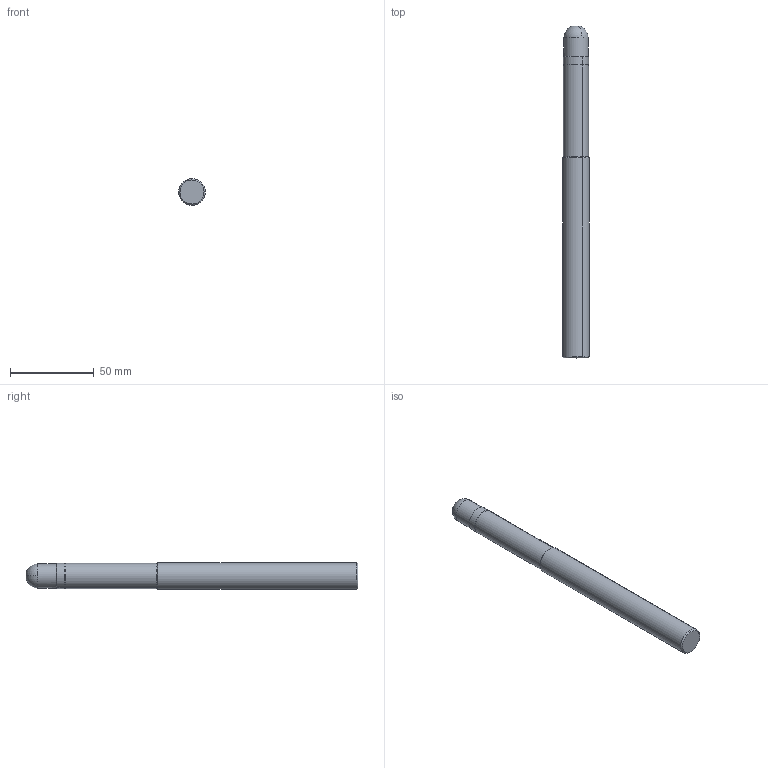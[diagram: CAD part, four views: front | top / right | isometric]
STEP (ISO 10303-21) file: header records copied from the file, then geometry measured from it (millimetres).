
FILE_DESCRIPTION (( 'STEP AP214' ), '1' );
FILE_NAME ('ZBC1602160.STEP', '2021-10-01T01:01:49', ( '' ), ( '' ), 'SwSTEP 2.0', 'SolidWorks 2018', '' );
FILE_SCHEMA (( 'AUTOMOTIVE_DESIGN' ));
Length unit declared in the file: millimetre
Products named in the file (1): ZBC1602160
Bounding box: 16 x 198.07 x 16 mm (x, y, z)
Volume: 37336.7 mm3; surface area: 10592.4 mm2
Topology: 3 solids, 3 shells, 32 faces, 67 edges, 39 vertices
Faces by surface type: cylinder 15, plane 6, sphere 4, bspline 4, cone 3
Entity records: 900 total; most frequent: CARTESIAN_POINT 169, DIRECTION 162, ORIENTED_EDGE 126, AXIS2_PLACEMENT_3D 70, EDGE_CURVE 63, CIRCLE 41, VERTEX_POINT 37, EDGE_LOOP 32
